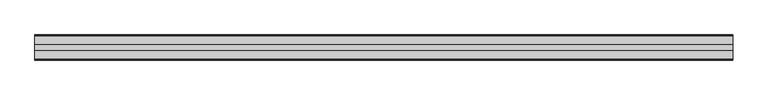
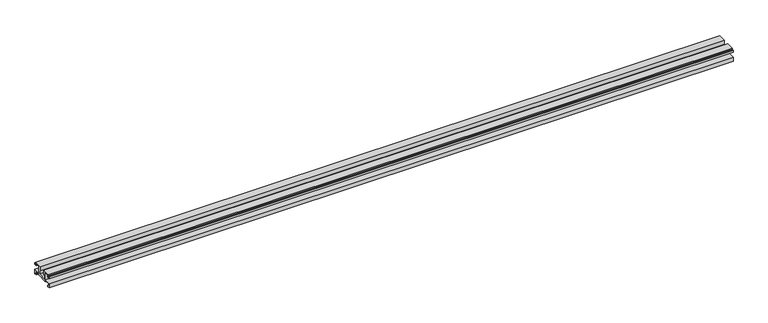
"""IFC4 building model written with IfcOpenShell, lengths in millimetres: proxy geometry, Weiku - Montante - Acoplamento vidro : Weiku - Montante - Acoplamento vidro."""

from ifc_helpers import new_model, si_unit, frame, origin, place, context, project, spatial, polyline, outline, extrude, source, transform, mapped, element, save


def generic_models_7a752e71(model_context):
    return source(origin(), model_context, "Body", "SweptSolid", [
        extrude(outline(polyline([(-35.405, 5.1494), (-35.405, 6.8004), (-45.741, 6.8004), (-45.741, 2.6094), (-43.8784, 2.6094), (-43.8784, 0.0), (-47.9014508, 0.0), (-47.9014508, 8.79), (-34.946, 8.79), (-34.946, 23.3104), (-43.5397, 23.3104), (-43.5397, 19.204), (-47.9, 19.204), (-47.9, 22.8024), (-46.9264, 22.8024), (-46.9264, 20.3894), (-44.725, 20.3894), (-44.725, 23.9454), (-45.5264504, 23.9454), (-45.5264504, 25.3), (-30.4164, 25.3), (-30.4164, 16.283), (-32.4484, 16.283), (-32.4484, 8.8), (-15.4516, 8.8), (-15.4516, 16.283), (-17.4836, 16.283), (-17.4836, 25.3), (-2.3735496, 25.3), (-2.3735496, 23.9454), (-3.175, 23.9454), (-3.175, 20.3894), (-0.9736, 20.3894), (-0.9736, 22.8024), (0.0, 22.8024), (0.0, 19.204), (-4.3603, 19.204), (-4.3603, 23.3104), (-12.954, 23.3104), (-12.954, 8.79), (0.0014508, 8.79), (0.0014508, 0.0), (-4.0216, 0.0), (-4.0216, 2.6094), (-2.159, 2.6094), (-2.159, 6.8004), (-12.495, 6.8004), (-12.495, 5.1494), (-35.405, 5.1494)])), frame((-664.5, 0.0, 0.0), z_axis=(1.0, 0.0, 0.0), x_axis=(0.0, 1.0, 0.0)), (0.0, 0.0, 1.0), 1329.0),
    ])


if __name__ == "__main__":
    model = new_model("IFC4")
    model_context = context("Model", 3, world=origin())
    ifc_project = project(units=[si_unit("LENGTHUNIT", "METRE", prefix="MILLI")], contexts=[model_context])
    site = spatial("IfcSite", under=ifc_project)
    building = spatial("IfcBuilding", under=site)
    placement = place(None, origin())
    generic_models_shape = generic_models_7a752e71(model_context)
    element("IfcBuildingElementProxy", 1, Name="Weiku - Montante - Acoplamento vidro : Weiku - Montante - Acoplamento vidro", ObjectType="Weiku - Montante - Acoplamento vidro : Weiku - Montante - Acoplamento vidro", at=placement, inside=building, context=model_context, shape_type="MappedRepresentation", body=[
        mapped(generic_models_shape, transform((0.0, 0.0, 0.0), x_axis=(1.0, 0.0, 0.0), y_axis=(0.0, 1.0, 0.0), z_axis=(0.0, 0.0, 1.0))),
    ])
    save(model, "model.ifc")
